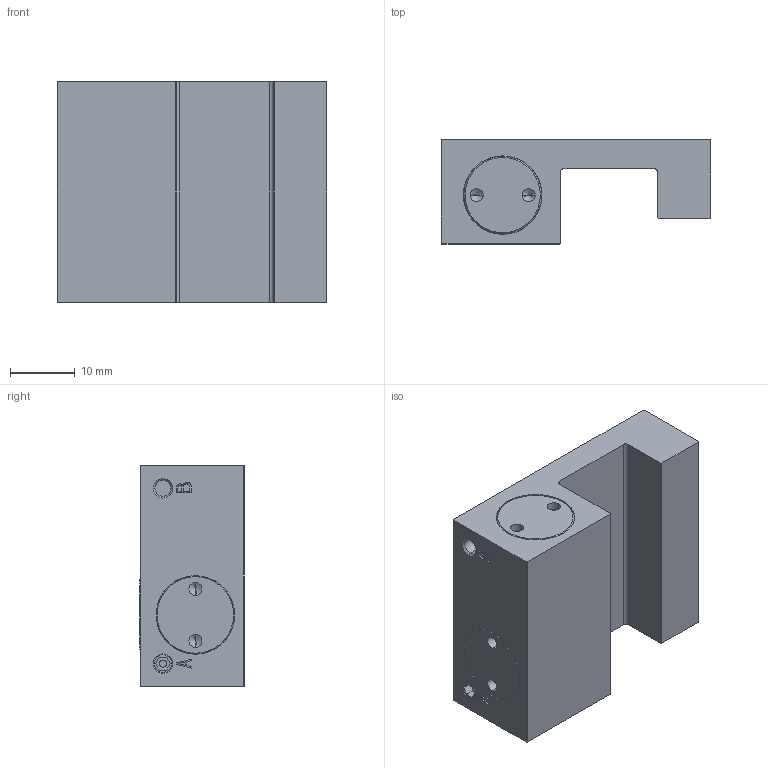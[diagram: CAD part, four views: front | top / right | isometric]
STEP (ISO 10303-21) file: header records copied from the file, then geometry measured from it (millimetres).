
FILE_DESCRIPTION( ( '' ), '1' );
FILE_NAME( 'E:/04 嬴檜蠱滌/0404 ZIMMER/040414 ZIMMER CAD download/MCP/MCP1504A---.stp', '2020-04-16T10:02:37', ( '' ), ( '' ), ' ', ' ', ' ' );
FILE_SCHEMA( ( 'automotive_design' ) );
Length unit declared in the file: millimetre
Products named in the file (1): 1
Bounding box: 41.5 x 16.05 x 34 mm (x, y, z)
Volume: 15464.5 mm3; surface area: 5745.2 mm2
Topology: 1 solids, 1 shells, 114 faces, 268 edges, 168 vertices
Faces by surface type: plane 60, cylinder 32, cone 22
Entity records: 6272 total; most frequent: DIRECTION 570, STYLED_ITEM 543, PRESENTATION_STYLE_ASSIGNMENT 543, CARTESIAN_POINT 543, COLOUR_RGB 543, ORIENTED_EDGE 520, EDGE_CURVE 260, CURVE_STYLE 260
